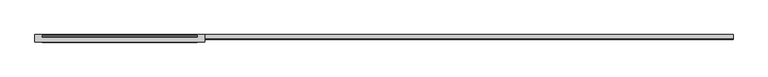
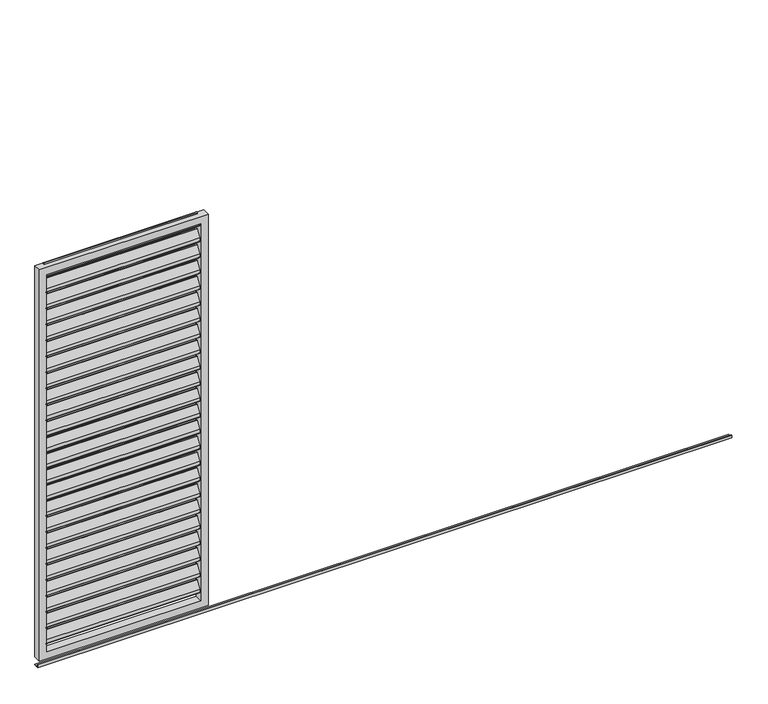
"""IFC4 building model written with IfcOpenShell, lengths in millimetres: proxy geometry, Renson_Amani_Loggia_Paro_Aluminium_Sliding : Renson_Amani_Loggia_Paro_Aluminium_Sliding."""

import ifcopenshell
import ifcopenshell.guid

model = None  # the IFC model being written
_history = None  # IfcOwnerHistory: only IFC2X3 demands one
_inside = {}  # id of a spatial element -> (the spatial element, [elements in it])
_under = {}  # id of a project, library or spatial element -> (it, [spatial elements below it])
_declared = {}  # id of a project -> (the project, [libraries it declares])
_typed = {}  # id of a type object -> (the type object, [elements of that type])
_made_of = {}  # id of a material, layer set ... -> (it, [elements and type objects made of it])


def new_model(schema):
    """Start an empty IFC model of exactly this schema.

    Asked for "IFC4X3", IfcOpenShell would pick the latest addendum, in which some entities
    have other attributes; the version numbers below select the first issue.
    IFC2X3 requires an IfcOwnerHistory on every rooted entity: one is made here for all.
    """
    global model, _history
    if schema == "IFC4X3":
        model = ifcopenshell.file(schema_version=(4, 3, 0, 0))
    else:
        model = ifcopenshell.file(schema=schema)
    _inside.clear()
    _under.clear()
    _declared.clear()
    _typed.clear()
    _made_of.clear()
    _history = None
    if model.schema == "IFC2X3":
        org = make("IfcOrganization", Name="unknown")
        user = make(
            "IfcPersonAndOrganization",
            ThePerson=make("IfcPerson", FamilyName="unknown"),
            TheOrganization=org,
        )
        app = make(
            "IfcApplication",
            ApplicationDeveloper=org,
            Version="unknown",
            ApplicationFullName="unknown",
            ApplicationIdentifier="unknown",
        )
        _history = make(
            "IfcOwnerHistory",
            OwningUser=user,
            OwningApplication=app,
            ChangeAction="ADDED",
            CreationDate=0,
        )
    return model


def make(cls, **values):
    """One entity of the class cls with the attributes given. An attribute that is None is left unset."""
    return model.create_entity(
        cls, **{name: value for name, value in values.items() if value is not None}
    )


def rooted(cls, **values):
    """An entity with a GlobalId (a new one), such as an element, a storey or a relation."""
    return make(cls, GlobalId=ifcopenshell.guid.new(), OwnerHistory=_history, **values)


def si_unit(unit_type, name, prefix=None):
    """IfcSIUnit, for example si_unit("LENGTHUNIT", "METRE", prefix="MILLI")."""
    return make("IfcSIUnit", UnitType=unit_type, Prefix=prefix, Name=name)


def assignment(units):
    """IfcUnitAssignment: the units of a project."""
    return None if units is None else make("IfcUnitAssignment", Units=units)


def point(xyz):
    """IfcCartesianPoint."""
    return None if xyz is None else make("IfcCartesianPoint", Coordinates=xyz)


def direction(xyz):
    """IfcDirection."""
    return None if xyz is None else make("IfcDirection", DirectionRatios=xyz)


def frame(location, z_axis=None, x_axis=None):
    """IfcAxis2Placement3D, a coordinate frame: its origin and axes. An axis left out is left unset."""
    return make(
        "IfcAxis2Placement3D",
        Location=point(location),
        Axis=direction(z_axis),
        RefDirection=direction(x_axis),
    )


def frame_2d(location, x_axis=None):
    """IfcAxis2Placement2D, a coordinate frame in the plane: its origin and x axis."""
    return make(
        "IfcAxis2Placement2D", Location=point(location), RefDirection=direction(x_axis)
    )


def origin():
    """The frame at (0, 0, 0) with its axes left unset."""
    return frame((0.0, 0.0, 0.0))


def place(relative_to, where):
    """IfcLocalPlacement: puts the frame where relative to a parent placement (None: the world)."""
    return make(
        "IfcLocalPlacement", PlacementRelTo=relative_to, RelativePlacement=where
    )


def context(
    kind, dimensions, precision=None, world=None, true_north=None, identifier=None
):
    """IfcGeometricRepresentationContext, for example the 3D "Model" context."""
    return make(
        "IfcGeometricRepresentationContext",
        ContextIdentifier=identifier,
        ContextType=kind,
        CoordinateSpaceDimension=dimensions,
        Precision=precision,
        WorldCoordinateSystem=world,
        TrueNorth=true_north,
    )


def project(units=None, contexts=None):
    """IfcProject with its units and contexts."""
    return rooted(
        "IfcProject",
        Name="project",
        RepresentationContexts=contexts,
        UnitsInContext=assignment(units),
    )


def spatial(cls, under=None, at=None, **own):
    """A site, building, storey or space (cls), placed at a placement, below another one or the project."""
    s = rooted(cls, ObjectPlacement=at, **own)
    if under is not None:
        _under.setdefault(under.id(), (under, []))[1].append(s)
    return s


def polyline(points):
    """IfcPolyline through the points."""
    return make("IfcPolyline", Points=[point(p) for p in points])


def circle_curve(where, radius):
    """IfcCircle in the frame where."""
    return make("IfcCircle", Position=where, Radius=radius)


def trimmed(basis, trim1, trim2, sense, master):
    """IfcTrimmedCurve: the piece of a basis curve between two trims."""
    return make(
        "IfcTrimmedCurve",
        BasisCurve=basis,
        Trim1=trim1,
        Trim2=trim2,
        SenseAgreement=sense,
        MasterRepresentation=master,
    )


def segment(curve, same_sense, transition):
    """IfcCompositeCurveSegment."""
    return make(
        "IfcCompositeCurveSegment",
        Transition=transition,
        SameSense=same_sense,
        ParentCurve=curve,
    )


def composite_curve(segments, self_intersect=None):
    """IfcCompositeCurve: segments joined end to end."""
    return make("IfcCompositeCurve", Segments=segments, SelfIntersect=self_intersect)


def outline(outer, holes=None, kind="AREA"):
    """IfcArbitraryClosedProfileDef: a profile drawn as a closed curve; with holes, ...WithVoids."""
    if holes is None:
        return make("IfcArbitraryClosedProfileDef", ProfileType=kind, OuterCurve=outer)
    return make(
        "IfcArbitraryProfileDefWithVoids",
        ProfileType=kind,
        OuterCurve=outer,
        InnerCurves=holes,
    )


def extrude(swept, where, along, depth):
    """IfcExtrudedAreaSolid: the profile swept, set in the frame where, extruded along a direction by depth."""
    return make(
        "IfcExtrudedAreaSolid",
        SweptArea=swept,
        Position=where,
        ExtrudedDirection=direction(along),
        Depth=depth,
    )


def shape(context_of_items, identifier, shape_type, items):
    """IfcShapeRepresentation: the items that make up one representation, for example the "Body"."""
    return make(
        "IfcShapeRepresentation",
        ContextOfItems=context_of_items,
        RepresentationIdentifier=identifier,
        RepresentationType=shape_type,
        Items=items,
    )


def source(mapping_origin, context_of_items, identifier, shape_type, items):
    """IfcRepresentationMap: a shape defined once, which mapped items show again and again."""
    return make(
        "IfcRepresentationMap",
        MappingOrigin=mapping_origin,
        MappedRepresentation=shape(context_of_items, identifier, shape_type, items),
    )


def transform(
    local_origin,
    x_axis=None,
    y_axis=None,
    z_axis=None,
    scale=None,
    scale2=None,
    scale3=None,
    uniform=True,
):
    """IfcCartesianTransformationOperator3D, or its non-uniform kind. x_axis, y_axis, z_axis: its Axis1, 2, 3."""
    if uniform:
        return make(
            "IfcCartesianTransformationOperator3D",
            Axis1=direction(x_axis),
            Axis2=direction(y_axis),
            LocalOrigin=point(local_origin),
            Scale=scale,
            Axis3=direction(z_axis),
        )
    return make(
        "IfcCartesianTransformationOperator3DnonUniform",
        Axis1=direction(x_axis),
        Axis2=direction(y_axis),
        LocalOrigin=point(local_origin),
        Scale=scale,
        Axis3=direction(z_axis),
        Scale2=scale2,
        Scale3=scale3,
    )


def mapped(mapping_source, mapping_target):
    """IfcMappedItem: shows the shape of a source again, moved by a transform."""
    return make(
        "IfcMappedItem", MappingSource=mapping_source, MappingTarget=mapping_target
    )


def made_of(thing, what):
    """Note that an element or type object is made of a material, layer set ...; save() writes the relation."""
    if what is not None:
        _made_of.setdefault(what.id(), (what, []))[1].append(thing)
    return thing


def element(
    cls,
    number,
    at=None,
    inside=None,
    cuts=None,
    type_object=None,
    material=None,
    context=None,
    identifier="Body",
    shape_type=None,
    held_by="IfcProductDefinitionShape",
    body=None,
    shapes=None,
    **own,
):
    """One element of the class cls, such as IfcWall. Its Tag is "e" and its number.

    at: its placement. inside: the storey or other place that contains it. cuts: it is an
    opening in that element (IfcRelVoidsElement). A single representation is given by context,
    identifier, shape_type and body (its items); several are given by shapes. held_by: the class
    of the entity that holds the representations. save() writes the other relations.
    """
    e = rooted(cls, Tag="e%d" % number, ObjectPlacement=at, **own)
    if body is not None:
        shapes = [shape(context, identifier, shape_type, body)]
    if shapes is not None:
        e.Representation = make(held_by, Representations=shapes)
    if inside is not None:
        _inside.setdefault(inside.id(), (inside, []))[1].append(e)
    if cuts is not None:
        rooted(
            "IfcRelVoidsElement", RelatingBuildingElement=cuts, RelatedOpeningElement=e
        )
    if type_object is not None:
        _typed.setdefault(type_object.id(), (type_object, []))[1].append(e)
    return made_of(e, material)


def aggregate(whole, parts):
    """IfcRelAggregates: a whole, such as a stair, and the parts it consists of."""
    return rooted("IfcRelAggregates", RelatingObject=whole, RelatedObjects=parts)


def save(model, path):
    """Write the relations noted so far, then the file.

    IfcRelAggregates (storeys below a building ...), IfcRelContainedInSpatialStructure (elements
    in a storey), IfcRelDefinesByType, IfcRelAssociatesMaterial and IfcRelDeclares: one each for
    every whole, place, type object, material and project.
    """
    for whole, parts in _under.values():
        aggregate(whole, parts)
    for where, things in _inside.values():
        rooted(
            "IfcRelContainedInSpatialStructure",
            RelatedElements=things,
            RelatingStructure=where,
        )
    for kind, things in _typed.values():
        rooted("IfcRelDefinesByType", RelatedObjects=things, RelatingType=kind)
    for what, things in _made_of.values():
        rooted("IfcRelAssociatesMaterial", RelatedObjects=things, RelatingMaterial=what)
    for by, libraries in _declared.values():
        rooted("IfcRelDeclares", RelatingContext=by, RelatedDefinitions=libraries)
    model.write(path)


def generic_models_96be32b9(model_context):
    return source(origin(), model_context, "Body", "SweptSolid", [
        extrude(outline(composite_curve([segment(trimmed(circle_curve(frame_2d((12.6675921, 2252.6587719)), 3.0), [point((10.1515804, 2254.292689))], [point((15.6675921, 2252.6587719))], False, "CARTESIAN"), True, "CONTINUOUS"), segment(polyline([(15.6675921, 2252.6587719), (15.6675921, 2234.2979873)]), True, "CONTINUOUS"), segment(trimmed(circle_curve(frame_2d((12.6675921, 2234.2979873)), 3.0), [point((15.6675921, 2234.2979873))], [point((15.1836038, 2232.6640702))], False, "CARTESIAN"), True, "CONTINUOUS"), segment(polyline([(15.1836038, 2232.6640702), (-8.8163962, 2195.707311)]), True, "CONTINUOUS"), segment(trimmed(circle_curve(frame_2d((-11.3324079, 2197.3412281)), 3.0), [point((-8.8163962, 2195.707311))], [point((-14.3324079, 2197.3412281))], False, "CARTESIAN"), True, "CONTINUOUS"), segment(polyline([(-14.3324079, 2197.3412281), (-14.3324079, 2216.5906532), (10.1515804, 2254.292689)]), True, "CONTINUOUS")], self_intersect=False)), frame((-410.0, 0.0, 0.0), z_axis=(1.0, 0.0, 0.0), x_axis=(0.0, 1.0, 0.0)), (0.0, 0.0, 1.0), 820.0),
        extrude(outline(composite_curve([segment(trimmed(circle_curve(frame_2d((12.6675921, 2162.6587719)), 3.0), [point((10.1515804, 2164.292689))], [point((15.6675921, 2162.6587719))], False, "CARTESIAN"), True, "CONTINUOUS"), segment(polyline([(15.6675921, 2162.6587719), (15.6675921, 2144.2979873)]), True, "CONTINUOUS"), segment(trimmed(circle_curve(frame_2d((12.6675921, 2144.2979873)), 3.0), [point((15.6675921, 2144.2979873))], [point((15.1836038, 2142.6640702))], False, "CARTESIAN"), True, "CONTINUOUS"), segment(polyline([(15.1836038, 2142.6640702), (-8.8163962, 2105.707311)]), True, "CONTINUOUS"), segment(trimmed(circle_curve(frame_2d((-11.3324079, 2107.3412281)), 3.0), [point((-8.8163962, 2105.707311))], [point((-14.3324079, 2107.3412281))], False, "CARTESIAN"), True, "CONTINUOUS"), segment(polyline([(-14.3324079, 2107.3412281), (-14.3324079, 2126.5906532), (10.1515804, 2164.292689)]), True, "CONTINUOUS")], self_intersect=False)), frame((-410.0, 0.0, 0.0), z_axis=(1.0, 0.0, 0.0), x_axis=(0.0, 1.0, 0.0)), (0.0, 0.0, 1.0), 820.0),
        extrude(outline(composite_curve([segment(trimmed(circle_curve(frame_2d((12.6675921, 2072.6587719)), 3.0), [point((10.1515804, 2074.292689))], [point((15.6675921, 2072.6587719))], False, "CARTESIAN"), True, "CONTINUOUS"), segment(polyline([(15.6675921, 2072.6587719), (15.6675921, 2054.2979873)]), True, "CONTINUOUS"), segment(trimmed(circle_curve(frame_2d((12.6675921, 2054.2979873)), 3.0), [point((15.6675921, 2054.2979873))], [point((15.1836038, 2052.6640702))], False, "CARTESIAN"), True, "CONTINUOUS"), segment(polyline([(15.1836038, 2052.6640702), (-8.8163962, 2015.707311)]), True, "CONTINUOUS"), segment(trimmed(circle_curve(frame_2d((-11.3324079, 2017.3412281)), 3.0), [point((-8.8163962, 2015.707311))], [point((-14.3324079, 2017.3412281))], False, "CARTESIAN"), True, "CONTINUOUS"), segment(polyline([(-14.3324079, 2017.3412281), (-14.3324079, 2036.5906532), (10.1515804, 2074.292689)]), True, "CONTINUOUS")], self_intersect=False)), frame((-410.0, 0.0, 0.0), z_axis=(1.0, 0.0, 0.0), x_axis=(0.0, 1.0, 0.0)), (0.0, 0.0, 1.0), 820.0),
        extrude(outline(composite_curve([segment(trimmed(circle_curve(frame_2d((12.6675921, 1982.6587719)), 3.0), [point((10.1515804, 1984.292689))], [point((15.6675921, 1982.6587719))], False, "CARTESIAN"), True, "CONTINUOUS"), segment(polyline([(15.6675921, 1982.6587719), (15.6675921, 1964.2979873)]), True, "CONTINUOUS"), segment(trimmed(circle_curve(frame_2d((12.6675921, 1964.2979873)), 3.0), [point((15.6675921, 1964.2979873))], [point((15.1836038, 1962.6640702))], False, "CARTESIAN"), True, "CONTINUOUS"), segment(polyline([(15.1836038, 1962.6640702), (-8.8163962, 1925.707311)]), True, "CONTINUOUS"), segment(trimmed(circle_curve(frame_2d((-11.3324079, 1927.3412281)), 3.0), [point((-8.8163962, 1925.707311))], [point((-14.3324079, 1927.3412281))], False, "CARTESIAN"), True, "CONTINUOUS"), segment(polyline([(-14.3324079, 1927.3412281), (-14.3324079, 1946.5906532), (10.1515804, 1984.292689)]), True, "CONTINUOUS")], self_intersect=False)), frame((-410.0, 0.0, 0.0), z_axis=(1.0, 0.0, 0.0), x_axis=(0.0, 1.0, 0.0)), (0.0, 0.0, 1.0), 820.0),
        extrude(outline(composite_curve([segment(trimmed(circle_curve(frame_2d((12.6675921, 1892.6587719)), 3.0), [point((10.1515804, 1894.292689))], [point((15.6675921, 1892.6587719))], False, "CARTESIAN"), True, "CONTINUOUS"), segment(polyline([(15.6675921, 1892.6587719), (15.6675921, 1874.2979873)]), True, "CONTINUOUS"), segment(trimmed(circle_curve(frame_2d((12.6675921, 1874.2979873)), 3.0), [point((15.6675921, 1874.2979873))], [point((15.1836038, 1872.6640702))], False, "CARTESIAN"), True, "CONTINUOUS"), segment(polyline([(15.1836038, 1872.6640702), (-8.8163962, 1835.707311)]), True, "CONTINUOUS"), segment(trimmed(circle_curve(frame_2d((-11.3324079, 1837.3412281)), 3.0), [point((-8.8163962, 1835.707311))], [point((-14.3324079, 1837.3412281))], False, "CARTESIAN"), True, "CONTINUOUS"), segment(polyline([(-14.3324079, 1837.3412281), (-14.3324079, 1856.5906532), (10.1515804, 1894.292689)]), True, "CONTINUOUS")], self_intersect=False)), frame((-410.0, 0.0, 0.0), z_axis=(1.0, 0.0, 0.0), x_axis=(0.0, 1.0, 0.0)), (0.0, 0.0, 1.0), 820.0),
        extrude(outline(composite_curve([segment(trimmed(circle_curve(frame_2d((12.6675921, 1802.6587719)), 3.0), [point((10.1515804, 1804.292689))], [point((15.6675921, 1802.6587719))], False, "CARTESIAN"), True, "CONTINUOUS"), segment(polyline([(15.6675921, 1802.6587719), (15.6675921, 1784.2979873)]), True, "CONTINUOUS"), segment(trimmed(circle_curve(frame_2d((12.6675921, 1784.2979873)), 3.0), [point((15.6675921, 1784.2979873))], [point((15.1836038, 1782.6640702))], False, "CARTESIAN"), True, "CONTINUOUS"), segment(polyline([(15.1836038, 1782.6640702), (-8.8163962, 1745.707311)]), True, "CONTINUOUS"), segment(trimmed(circle_curve(frame_2d((-11.3324079, 1747.3412281)), 3.0), [point((-8.8163962, 1745.707311))], [point((-14.3324079, 1747.3412281))], False, "CARTESIAN"), True, "CONTINUOUS"), segment(polyline([(-14.3324079, 1747.3412281), (-14.3324079, 1766.5906532), (10.1515804, 1804.292689)]), True, "CONTINUOUS")], self_intersect=False)), frame((-410.0, 0.0, 0.0), z_axis=(1.0, 0.0, 0.0), x_axis=(0.0, 1.0, 0.0)), (0.0, 0.0, 1.0), 820.0),
        extrude(outline(composite_curve([segment(trimmed(circle_curve(frame_2d((12.6675921, 1712.6587719)), 3.0), [point((10.1515804, 1714.292689))], [point((15.6675921, 1712.6587719))], False, "CARTESIAN"), True, "CONTINUOUS"), segment(polyline([(15.6675921, 1712.6587719), (15.6675921, 1694.2979873)]), True, "CONTINUOUS"), segment(trimmed(circle_curve(frame_2d((12.6675921, 1694.2979873)), 3.0), [point((15.6675921, 1694.2979873))], [point((15.1836038, 1692.6640702))], False, "CARTESIAN"), True, "CONTINUOUS"), segment(polyline([(15.1836038, 1692.6640702), (-8.8163962, 1655.707311)]), True, "CONTINUOUS"), segment(trimmed(circle_curve(frame_2d((-11.3324079, 1657.3412281)), 3.0), [point((-8.8163962, 1655.707311))], [point((-14.3324079, 1657.3412281))], False, "CARTESIAN"), True, "CONTINUOUS"), segment(polyline([(-14.3324079, 1657.3412281), (-14.3324079, 1676.5906532), (10.1515804, 1714.292689)]), True, "CONTINUOUS")], self_intersect=False)), frame((-410.0, 0.0, 0.0), z_axis=(1.0, 0.0, 0.0), x_axis=(0.0, 1.0, 0.0)), (0.0, 0.0, 1.0), 820.0),
        extrude(outline(composite_curve([segment(trimmed(circle_curve(frame_2d((12.6675921, 1622.6587719)), 3.0), [point((10.1515804, 1624.292689))], [point((15.6675921, 1622.6587719))], False, "CARTESIAN"), True, "CONTINUOUS"), segment(polyline([(15.6675921, 1622.6587719), (15.6675921, 1604.2979873)]), True, "CONTINUOUS"), segment(trimmed(circle_curve(frame_2d((12.6675921, 1604.2979873)), 3.0), [point((15.6675921, 1604.2979873))], [point((15.1836038, 1602.6640702))], False, "CARTESIAN"), True, "CONTINUOUS"), segment(polyline([(15.1836038, 1602.6640702), (-8.8163962, 1565.707311)]), True, "CONTINUOUS"), segment(trimmed(circle_curve(frame_2d((-11.3324079, 1567.3412281)), 3.0), [point((-8.8163962, 1565.707311))], [point((-14.3324079, 1567.3412281))], False, "CARTESIAN"), True, "CONTINUOUS"), segment(polyline([(-14.3324079, 1567.3412281), (-14.3324079, 1586.5906532), (10.1515804, 1624.292689)]), True, "CONTINUOUS")], self_intersect=False)), frame((-410.0, 0.0, 0.0), z_axis=(1.0, 0.0, 0.0), x_axis=(0.0, 1.0, 0.0)), (0.0, 0.0, 1.0), 820.0),
        extrude(outline(composite_curve([segment(trimmed(circle_curve(frame_2d((12.6675921, 1532.6587719)), 3.0), [point((10.1515804, 1534.292689))], [point((15.6675921, 1532.6587719))], False, "CARTESIAN"), True, "CONTINUOUS"), segment(polyline([(15.6675921, 1532.6587719), (15.6675921, 1514.2979873)]), True, "CONTINUOUS"), segment(trimmed(circle_curve(frame_2d((12.6675921, 1514.2979873)), 3.0), [point((15.6675921, 1514.2979873))], [point((15.1836038, 1512.6640702))], False, "CARTESIAN"), True, "CONTINUOUS"), segment(polyline([(15.1836038, 1512.6640702), (-8.8163962, 1475.707311)]), True, "CONTINUOUS"), segment(trimmed(circle_curve(frame_2d((-11.3324079, 1477.3412281)), 3.0), [point((-8.8163962, 1475.707311))], [point((-14.3324079, 1477.3412281))], False, "CARTESIAN"), True, "CONTINUOUS"), segment(polyline([(-14.3324079, 1477.3412281), (-14.3324079, 1496.5906532), (10.1515804, 1534.292689)]), True, "CONTINUOUS")], self_intersect=False)), frame((-410.0, 0.0, 0.0), z_axis=(1.0, 0.0, 0.0), x_axis=(0.0, 1.0, 0.0)), (0.0, 0.0, 1.0), 820.0),
        extrude(outline(composite_curve([segment(trimmed(circle_curve(frame_2d((12.6675921, 1442.6587719)), 3.0), [point((10.1515804, 1444.292689))], [point((15.6675921, 1442.6587719))], False, "CARTESIAN"), True, "CONTINUOUS"), segment(polyline([(15.6675921, 1442.6587719), (15.6675921, 1424.2979873)]), True, "CONTINUOUS"), segment(trimmed(circle_curve(frame_2d((12.6675921, 1424.2979873)), 3.0), [point((15.6675921, 1424.2979873))], [point((15.1836038, 1422.6640702))], False, "CARTESIAN"), True, "CONTINUOUS"), segment(polyline([(15.1836038, 1422.6640702), (-8.8163962, 1385.707311)]), True, "CONTINUOUS"), segment(trimmed(circle_curve(frame_2d((-11.3324079, 1387.3412281)), 3.0), [point((-8.8163962, 1385.707311))], [point((-14.3324079, 1387.3412281))], False, "CARTESIAN"), True, "CONTINUOUS"), segment(polyline([(-14.3324079, 1387.3412281), (-14.3324079, 1406.5906532), (10.1515804, 1444.292689)]), True, "CONTINUOUS")], self_intersect=False)), frame((-410.0, 0.0, 0.0), z_axis=(1.0, 0.0, 0.0), x_axis=(0.0, 1.0, 0.0)), (0.0, 0.0, 1.0), 820.0),
        extrude(outline(composite_curve([segment(trimmed(circle_curve(frame_2d((12.6675921, 1352.6587719)), 3.0), [point((10.1515804, 1354.292689))], [point((15.6675921, 1352.6587719))], False, "CARTESIAN"), True, "CONTINUOUS"), segment(polyline([(15.6675921, 1352.6587719), (15.6675921, 1334.2979873)]), True, "CONTINUOUS"), segment(trimmed(circle_curve(frame_2d((12.6675921, 1334.2979873)), 3.0), [point((15.6675921, 1334.2979873))], [point((15.1836038, 1332.6640702))], False, "CARTESIAN"), True, "CONTINUOUS"), segment(polyline([(15.1836038, 1332.6640702), (-8.8163962, 1295.707311)]), True, "CONTINUOUS"), segment(trimmed(circle_curve(frame_2d((-11.3324079, 1297.3412281)), 3.0), [point((-8.8163962, 1295.707311))], [point((-14.3324079, 1297.3412281))], False, "CARTESIAN"), True, "CONTINUOUS"), segment(polyline([(-14.3324079, 1297.3412281), (-14.3324079, 1316.5906532), (10.1515804, 1354.292689)]), True, "CONTINUOUS")], self_intersect=False)), frame((-410.0, 0.0, 0.0), z_axis=(1.0, 0.0, 0.0), x_axis=(0.0, 1.0, 0.0)), (0.0, 0.0, 1.0), 820.0),
        extrude(outline(composite_curve([segment(trimmed(circle_curve(frame_2d((12.6675921, 1262.6587719)), 3.0), [point((10.1515804, 1264.292689))], [point((15.6675921, 1262.6587719))], False, "CARTESIAN"), True, "CONTINUOUS"), segment(polyline([(15.6675921, 1262.6587719), (15.6675921, 1244.2979873)]), True, "CONTINUOUS"), segment(trimmed(circle_curve(frame_2d((12.6675921, 1244.2979873)), 3.0), [point((15.6675921, 1244.2979873))], [point((15.1836038, 1242.6640702))], False, "CARTESIAN"), True, "CONTINUOUS"), segment(polyline([(15.1836038, 1242.6640702), (-8.8163962, 1205.707311)]), True, "CONTINUOUS"), segment(trimmed(circle_curve(frame_2d((-11.3324079, 1207.3412281)), 3.0), [point((-8.8163962, 1205.707311))], [point((-14.3324079, 1207.3412281))], False, "CARTESIAN"), True, "CONTINUOUS"), segment(polyline([(-14.3324079, 1207.3412281), (-14.3324079, 1226.5906532), (10.1515804, 1264.292689)]), True, "CONTINUOUS")], self_intersect=False)), frame((-410.0, 0.0, 0.0), z_axis=(1.0, 0.0, 0.0), x_axis=(0.0, 1.0, 0.0)), (0.0, 0.0, 1.0), 820.0),
        extrude(outline(composite_curve([segment(trimmed(circle_curve(frame_2d((12.6675921, 1172.6587719)), 3.0), [point((10.1515804, 1174.292689))], [point((15.6675921, 1172.6587719))], False, "CARTESIAN"), True, "CONTINUOUS"), segment(polyline([(15.6675921, 1172.6587719), (15.6675921, 1154.2979873)]), True, "CONTINUOUS"), segment(trimmed(circle_curve(frame_2d((12.6675921, 1154.2979873)), 3.0), [point((15.6675921, 1154.2979873))], [point((15.1836038, 1152.6640702))], False, "CARTESIAN"), True, "CONTINUOUS"), segment(polyline([(15.1836038, 1152.6640702), (-8.8163962, 1115.707311)]), True, "CONTINUOUS"), segment(trimmed(circle_curve(frame_2d((-11.3324079, 1117.3412281)), 3.0), [point((-8.8163962, 1115.707311))], [point((-14.3324079, 1117.3412281))], False, "CARTESIAN"), True, "CONTINUOUS"), segment(polyline([(-14.3324079, 1117.3412281), (-14.3324079, 1136.5906532), (10.1515804, 1174.292689)]), True, "CONTINUOUS")], self_intersect=False)), frame((-410.0, 0.0, 0.0), z_axis=(1.0, 0.0, 0.0), x_axis=(0.0, 1.0, 0.0)), (0.0, 0.0, 1.0), 820.0),
        extrude(outline(composite_curve([segment(trimmed(circle_curve(frame_2d((12.6675921, 1082.6587719)), 3.0), [point((10.1515804, 1084.292689))], [point((15.6675921, 1082.6587719))], False, "CARTESIAN"), True, "CONTINUOUS"), segment(polyline([(15.6675921, 1082.6587719), (15.6675921, 1064.2979873)]), True, "CONTINUOUS"), segment(trimmed(circle_curve(frame_2d((12.6675921, 1064.2979873)), 3.0), [point((15.6675921, 1064.2979873))], [point((15.1836038, 1062.6640702))], False, "CARTESIAN"), True, "CONTINUOUS"), segment(polyline([(15.1836038, 1062.6640702), (-8.8163962, 1025.707311)]), True, "CONTINUOUS"), segment(trimmed(circle_curve(frame_2d((-11.3324079, 1027.3412281)), 3.0), [point((-8.8163962, 1025.707311))], [point((-14.3324079, 1027.3412281))], False, "CARTESIAN"), True, "CONTINUOUS"), segment(polyline([(-14.3324079, 1027.3412281), (-14.3324079, 1046.5906532), (10.1515804, 1084.292689)]), True, "CONTINUOUS")], self_intersect=False)), frame((-410.0, 0.0, 0.0), z_axis=(1.0, 0.0, 0.0), x_axis=(0.0, 1.0, 0.0)), (0.0, 0.0, 1.0), 820.0),
        extrude(outline(composite_curve([segment(trimmed(circle_curve(frame_2d((12.6675921, 992.6587719)), 3.0), [point((10.1515804, 994.292689))], [point((15.6675921, 992.6587719))], False, "CARTESIAN"), True, "CONTINUOUS"), segment(polyline([(15.6675921, 992.6587719), (15.6675921, 974.2979873)]), True, "CONTINUOUS"), segment(trimmed(circle_curve(frame_2d((12.6675921, 974.2979873)), 3.0), [point((15.6675921, 974.2979873))], [point((15.1836038, 972.6640702))], False, "CARTESIAN"), True, "CONTINUOUS"), segment(polyline([(15.1836038, 972.6640702), (-8.8163962, 935.707311)]), True, "CONTINUOUS"), segment(trimmed(circle_curve(frame_2d((-11.3324079, 937.3412281)), 3.0), [point((-8.8163962, 935.707311))], [point((-14.3324079, 937.3412281))], False, "CARTESIAN"), True, "CONTINUOUS"), segment(polyline([(-14.3324079, 937.3412281), (-14.3324079, 956.5906532), (10.1515804, 994.292689)]), True, "CONTINUOUS")], self_intersect=False)), frame((-410.0, 0.0, 0.0), z_axis=(1.0, 0.0, 0.0), x_axis=(0.0, 1.0, 0.0)), (0.0, 0.0, 1.0), 820.0),
        extrude(outline(composite_curve([segment(trimmed(circle_curve(frame_2d((12.6675921, 902.6587719)), 3.0), [point((10.1515804, 904.292689))], [point((15.6675921, 902.6587719))], False, "CARTESIAN"), True, "CONTINUOUS"), segment(polyline([(15.6675921, 902.6587719), (15.6675921, 884.2979873)]), True, "CONTINUOUS"), segment(trimmed(circle_curve(frame_2d((12.6675921, 884.2979873)), 3.0), [point((15.6675921, 884.2979873))], [point((15.1836038, 882.6640702))], False, "CARTESIAN"), True, "CONTINUOUS"), segment(polyline([(15.1836038, 882.6640702), (-8.8163962, 845.707311)]), True, "CONTINUOUS"), segment(trimmed(circle_curve(frame_2d((-11.3324079, 847.3412281)), 3.0), [point((-8.8163962, 845.707311))], [point((-14.3324079, 847.3412281))], False, "CARTESIAN"), True, "CONTINUOUS"), segment(polyline([(-14.3324079, 847.3412281), (-14.3324079, 866.5906532), (10.1515804, 904.292689)]), True, "CONTINUOUS")], self_intersect=False)), frame((-410.0, 0.0, 0.0), z_axis=(1.0, 0.0, 0.0), x_axis=(0.0, 1.0, 0.0)), (0.0, 0.0, 1.0), 820.0),
        extrude(outline(composite_curve([segment(trimmed(circle_curve(frame_2d((12.6675921, 812.6587719)), 3.0), [point((10.1515804, 814.292689))], [point((15.6675921, 812.6587719))], False, "CARTESIAN"), True, "CONTINUOUS"), segment(polyline([(15.6675921, 812.6587719), (15.6675921, 794.2979873)]), True, "CONTINUOUS"), segment(trimmed(circle_curve(frame_2d((12.6675921, 794.2979873)), 3.0), [point((15.6675921, 794.2979873))], [point((15.1836038, 792.6640702))], False, "CARTESIAN"), True, "CONTINUOUS"), segment(polyline([(15.1836038, 792.6640702), (-8.8163962, 755.707311)]), True, "CONTINUOUS"), segment(trimmed(circle_curve(frame_2d((-11.3324079, 757.3412281)), 3.0), [point((-8.8163962, 755.707311))], [point((-14.3324079, 757.3412281))], False, "CARTESIAN"), True, "CONTINUOUS"), segment(polyline([(-14.3324079, 757.3412281), (-14.3324079, 776.5906532), (10.1515804, 814.292689)]), True, "CONTINUOUS")], self_intersect=False)), frame((-410.0, 0.0, 0.0), z_axis=(1.0, 0.0, 0.0), x_axis=(0.0, 1.0, 0.0)), (0.0, 0.0, 1.0), 820.0),
        extrude(outline(composite_curve([segment(trimmed(circle_curve(frame_2d((12.6675921, 722.6587719)), 3.0), [point((10.1515804, 724.292689))], [point((15.6675921, 722.6587719))], False, "CARTESIAN"), True, "CONTINUOUS"), segment(polyline([(15.6675921, 722.6587719), (15.6675921, 704.2979873)]), True, "CONTINUOUS"), segment(trimmed(circle_curve(frame_2d((12.6675921, 704.2979873)), 3.0), [point((15.6675921, 704.2979873))], [point((15.1836038, 702.6640702))], False, "CARTESIAN"), True, "CONTINUOUS"), segment(polyline([(15.1836038, 702.6640702), (-8.8163962, 665.707311)]), True, "CONTINUOUS"), segment(trimmed(circle_curve(frame_2d((-11.3324079, 667.3412281)), 3.0), [point((-8.8163962, 665.707311))], [point((-14.3324079, 667.3412281))], False, "CARTESIAN"), True, "CONTINUOUS"), segment(polyline([(-14.3324079, 667.3412281), (-14.3324079, 686.5906532), (10.1515804, 724.292689)]), True, "CONTINUOUS")], self_intersect=False)), frame((-410.0, 0.0, 0.0), z_axis=(1.0, 0.0, 0.0), x_axis=(0.0, 1.0, 0.0)), (0.0, 0.0, 1.0), 820.0),
        extrude(outline(composite_curve([segment(trimmed(circle_curve(frame_2d((12.6675921, 632.6587719)), 3.0), [point((10.1515804, 634.292689))], [point((15.6675921, 632.6587719))], False, "CARTESIAN"), True, "CONTINUOUS"), segment(polyline([(15.6675921, 632.6587719), (15.6675921, 614.2979873)]), True, "CONTINUOUS"), segment(trimmed(circle_curve(frame_2d((12.6675921, 614.2979873)), 3.0), [point((15.6675921, 614.2979873))], [point((15.1836038, 612.6640702))], False, "CARTESIAN"), True, "CONTINUOUS"), segment(polyline([(15.1836038, 612.6640702), (-8.8163962, 575.707311)]), True, "CONTINUOUS"), segment(trimmed(circle_curve(frame_2d((-11.3324079, 577.3412281)), 3.0), [point((-8.8163962, 575.707311))], [point((-14.3324079, 577.3412281))], False, "CARTESIAN"), True, "CONTINUOUS"), segment(polyline([(-14.3324079, 577.3412281), (-14.3324079, 596.5906532), (10.1515804, 634.292689)]), True, "CONTINUOUS")], self_intersect=False)), frame((-410.0, 0.0, 0.0), z_axis=(1.0, 0.0, 0.0), x_axis=(0.0, 1.0, 0.0)), (0.0, 0.0, 1.0), 820.0),
        extrude(outline(composite_curve([segment(trimmed(circle_curve(frame_2d((12.6675921, 542.6587719)), 3.0), [point((10.1515804, 544.292689))], [point((15.6675921, 542.6587719))], False, "CARTESIAN"), True, "CONTINUOUS"), segment(polyline([(15.6675921, 542.6587719), (15.6675921, 524.2979873)]), True, "CONTINUOUS"), segment(trimmed(circle_curve(frame_2d((12.6675921, 524.2979873)), 3.0), [point((15.6675921, 524.2979873))], [point((15.1836038, 522.6640702))], False, "CARTESIAN"), True, "CONTINUOUS"), segment(polyline([(15.1836038, 522.6640702), (-8.8163962, 485.707311)]), True, "CONTINUOUS"), segment(trimmed(circle_curve(frame_2d((-11.3324079, 487.3412281)), 3.0), [point((-8.8163962, 485.707311))], [point((-14.3324079, 487.3412281))], False, "CARTESIAN"), True, "CONTINUOUS"), segment(polyline([(-14.3324079, 487.3412281), (-14.3324079, 506.5906532), (10.1515804, 544.292689)]), True, "CONTINUOUS")], self_intersect=False)), frame((-410.0, 0.0, 0.0), z_axis=(1.0, 0.0, 0.0), x_axis=(0.0, 1.0, 0.0)), (0.0, 0.0, 1.0), 820.0),
        extrude(outline(composite_curve([segment(trimmed(circle_curve(frame_2d((12.6675921, 452.6587719)), 3.0), [point((10.1515804, 454.292689))], [point((15.6675921, 452.6587719))], False, "CARTESIAN"), True, "CONTINUOUS"), segment(polyline([(15.6675921, 452.6587719), (15.6675921, 434.2979873)]), True, "CONTINUOUS"), segment(trimmed(circle_curve(frame_2d((12.6675921, 434.2979873)), 3.0), [point((15.6675921, 434.2979873))], [point((15.1836038, 432.6640702))], False, "CARTESIAN"), True, "CONTINUOUS"), segment(polyline([(15.1836038, 432.6640702), (-8.8163962, 395.707311)]), True, "CONTINUOUS"), segment(trimmed(circle_curve(frame_2d((-11.3324079, 397.3412281)), 3.0), [point((-8.8163962, 395.707311))], [point((-14.3324079, 397.3412281))], False, "CARTESIAN"), True, "CONTINUOUS"), segment(polyline([(-14.3324079, 397.3412281), (-14.3324079, 416.5906532), (10.1515804, 454.292689)]), True, "CONTINUOUS")], self_intersect=False)), frame((-410.0, 0.0, 0.0), z_axis=(1.0, 0.0, 0.0), x_axis=(0.0, 1.0, 0.0)), (0.0, 0.0, 1.0), 820.0),
        extrude(outline(composite_curve([segment(trimmed(circle_curve(frame_2d((12.6675921, 362.6587719)), 3.0), [point((10.1515804, 364.292689))], [point((15.6675921, 362.6587719))], False, "CARTESIAN"), True, "CONTINUOUS"), segment(polyline([(15.6675921, 362.6587719), (15.6675921, 344.2979873)]), True, "CONTINUOUS"), segment(trimmed(circle_curve(frame_2d((12.6675921, 344.2979873)), 3.0), [point((15.6675921, 344.2979873))], [point((15.1836038, 342.6640702))], False, "CARTESIAN"), True, "CONTINUOUS"), segment(polyline([(15.1836038, 342.6640702), (-8.8163962, 305.707311)]), True, "CONTINUOUS"), segment(trimmed(circle_curve(frame_2d((-11.3324079, 307.3412281)), 3.0), [point((-8.8163962, 305.707311))], [point((-14.3324079, 307.3412281))], False, "CARTESIAN"), True, "CONTINUOUS"), segment(polyline([(-14.3324079, 307.3412281), (-14.3324079, 326.5906532), (10.1515804, 364.292689)]), True, "CONTINUOUS")], self_intersect=False)), frame((-410.0, 0.0, 0.0), z_axis=(1.0, 0.0, 0.0), x_axis=(0.0, 1.0, 0.0)), (0.0, 0.0, 1.0), 820.0),
        extrude(outline(composite_curve([segment(trimmed(circle_curve(frame_2d((12.6675921, 272.6587719)), 3.0), [point((10.1515804, 274.292689))], [point((15.6675921, 272.6587719))], False, "CARTESIAN"), True, "CONTINUOUS"), segment(polyline([(15.6675921, 272.6587719), (15.6675921, 254.2979873)]), True, "CONTINUOUS"), segment(trimmed(circle_curve(frame_2d((12.6675921, 254.2979873)), 3.0), [point((15.6675921, 254.2979873))], [point((15.1836038, 252.6640702))], False, "CARTESIAN"), True, "CONTINUOUS"), segment(polyline([(15.1836038, 252.6640702), (-8.8163962, 215.707311)]), True, "CONTINUOUS"), segment(trimmed(circle_curve(frame_2d((-11.3324079, 217.3412281)), 3.0), [point((-8.8163962, 215.707311))], [point((-14.3324079, 217.3412281))], False, "CARTESIAN"), True, "CONTINUOUS"), segment(polyline([(-14.3324079, 217.3412281), (-14.3324079, 236.5906532), (10.1515804, 274.292689)]), True, "CONTINUOUS")], self_intersect=False)), frame((-410.0, 0.0, 0.0), z_axis=(1.0, 0.0, 0.0), x_axis=(0.0, 1.0, 0.0)), (0.0, 0.0, 1.0), 820.0),
        extrude(outline(composite_curve([segment(trimmed(circle_curve(frame_2d((12.6675921, 182.6587719)), 3.0), [point((10.1515804, 184.292689))], [point((15.6675921, 182.6587719))], False, "CARTESIAN"), True, "CONTINUOUS"), segment(polyline([(15.6675921, 182.6587719), (15.6675921, 164.2979873)]), True, "CONTINUOUS"), segment(trimmed(circle_curve(frame_2d((12.6675921, 164.2979873)), 3.0), [point((15.6675921, 164.2979873))], [point((15.1836038, 162.6640702))], False, "CARTESIAN"), True, "CONTINUOUS"), segment(polyline([(15.1836038, 162.6640702), (-8.8163962, 125.707311)]), True, "CONTINUOUS"), segment(trimmed(circle_curve(frame_2d((-11.3324079, 127.3412281)), 3.0), [point((-8.8163962, 125.707311))], [point((-14.3324079, 127.3412281))], False, "CARTESIAN"), True, "CONTINUOUS"), segment(polyline([(-14.3324079, 127.3412281), (-14.3324079, 146.5906532), (10.1515804, 184.292689)]), True, "CONTINUOUS")], self_intersect=False)), frame((-410.0, 0.0, 0.0), z_axis=(1.0, 0.0, 0.0), x_axis=(0.0, 1.0, 0.0)), (0.0, 0.0, 1.0), 820.0),
        extrude(outline(polyline([(-6.0, 15.0), (-3.0, 15.0), (-3.0, 3.0), (20.0, 3.0), (20.0, 0.0), (-6.0, 0.0), (-6.0, 15.0)])), frame((-450.0, 0.0, 0.0), z_axis=(1.0, 0.0, 0.0), x_axis=(0.0, 1.0, 0.0)), (0.0, 0.0, 1.0), 3700.0),
        extrude(outline(polyline([(2250.0, -450.0), (45.0, -450.0), (45.0, 450.0), (2250.0, 450.0), (2250.0, -450.0)]), holes=[polyline([(2210.0, 410.0), (85.0, 410.0), (85.0, -410.0), (2210.0, -410.0), (2210.0, 410.0)])]), frame((0.0, -20.0, 0.0), z_axis=(0.0, 1.0, 0.0), x_axis=(0.0, 0.0, 1.0)), (0.0, 0.0, 1.0), 40.0),
    ])


if __name__ == "__main__":
    model = new_model("IFC4")
    model_context = context("Model", 3, world=origin())
    ifc_project = project(units=[si_unit("LENGTHUNIT", "METRE", prefix="MILLI")], contexts=[model_context])
    site = spatial("IfcSite", under=ifc_project)
    building = spatial("IfcBuilding", under=site)
    placement = place(None, origin())
    generic_models_shape = generic_models_96be32b9(model_context)
    element("IfcBuildingElementProxy", 1, Name="Renson_Amani_Loggia_Paro_Aluminium_Sliding : Renson_Amani_Loggia_Paro_Aluminium_Sliding", ObjectType="Renson_Amani_Loggia_Paro_Aluminium_Sliding : Renson_Amani_Loggia_Paro_Aluminium_Sliding", at=placement, inside=building, context=model_context, shape_type="MappedRepresentation", body=[
        mapped(generic_models_shape, transform((0.0, 0.0, 0.0), x_axis=(1.0, 0.0, 0.0), y_axis=(0.0, 1.0, 0.0), z_axis=(0.0, 0.0, 1.0))),
    ])
    save(model, "model.ifc")
